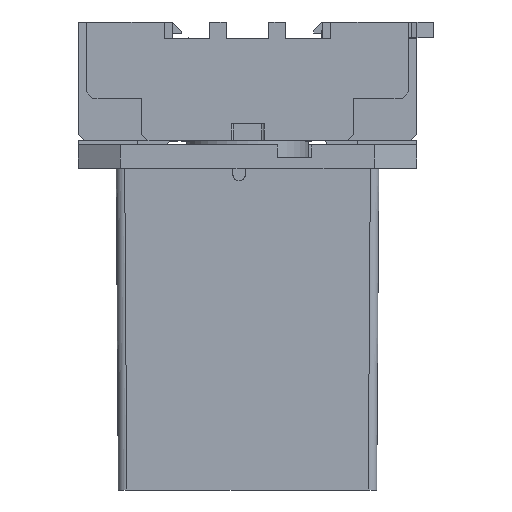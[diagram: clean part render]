
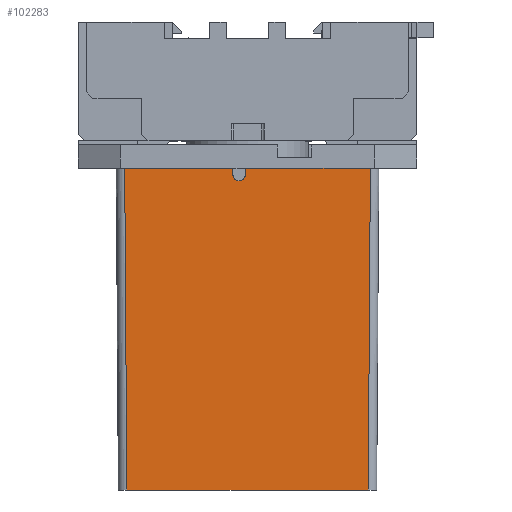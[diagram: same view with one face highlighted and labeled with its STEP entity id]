
A CAD part, left-side view. The second image highlights one B-rep face of the part: STEP entity #102283.
In plain terms, the highlighted planar face has unit normal (-1, 0, -0.007).
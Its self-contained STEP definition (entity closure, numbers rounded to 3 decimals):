
#101972=CARTESIAN_POINT('',(-24.99,0.5,74.5));
#101973=VERTEX_POINT('',#101972);
#101974=CARTESIAN_POINT('',(-24.99,3.5,74.5));
#101975=VERTEX_POINT('',#101974);
#101976=CARTESIAN_POINT('',(-24.99,2.,74.5));
#101977=DIRECTION('',(1.,0.0,0.007));
#101978=DIRECTION('',(0.0,1.0,0.0));
#101979=AXIS2_PLACEMENT_3D('',#101976,#101977,#101978);
#101980=CIRCLE('',#101979,1.5);
#101981=EDGE_CURVE('',#101973,#101975,#101980,.T.);
#102014=CARTESIAN_POINT('',(-25.0,0.5,76.0));
#102015=VERTEX_POINT('',#102014);
#102016=CARTESIAN_POINT('',(-25.,0.5,76.));
#102017=DIRECTION('',(0.007,0.,-1.));
#102018=VECTOR('',#102017,1.5);
#102019=LINE('',#102016,#102018);
#102020=EDGE_CURVE('',#102015,#101973,#102019,.T.);
#102171=CARTESIAN_POINT('',(-25.,3.5,76.0));
#102172=VERTEX_POINT('',#102171);
#102202=CARTESIAN_POINT('',(-24.99,3.5,74.5));
#102203=DIRECTION('',(-0.007,0.0,1.));
#102204=VECTOR('',#102203,1.5);
#102205=LINE('',#102202,#102204);
#102206=EDGE_CURVE('',#101975,#102172,#102205,.T.);
#102235=CARTESIAN_POINT('',(-25.0,-31.,76.0));
#102236=DIRECTION('',(-1.,0.,-0.007));
#102237=DIRECTION('',(-0.007,0.0,1.));
#102238=AXIS2_PLACEMENT_3D('',#102235,#102236,#102237);
#102239=PLANE('',#102238);
#102240=ORIENTED_EDGE('',*,*,#102206,.T.);
#102241=CARTESIAN_POINT('',(-25.,29.,76.0));
#102242=VERTEX_POINT('',#102241);
#102243=CARTESIAN_POINT('',(-25.,3.5,76.0));
#102244=DIRECTION('',(0.0,1.0,0.0));
#102245=VECTOR('',#102244,25.5);
#102246=LINE('',#102243,#102245);
#102247=EDGE_CURVE('',#102172,#102242,#102246,.T.);
#102248=ORIENTED_EDGE('',*,*,#102247,.T.);
#102249=CARTESIAN_POINT('',(-24.5,28.5,0.0));
#102250=VERTEX_POINT('',#102249);
#102251=CARTESIAN_POINT('',(-24.5,28.5,0.));
#102252=DIRECTION('',(-0.007,0.007,1.));
#102253=VECTOR('',#102252,76.003);
#102254=LINE('',#102251,#102253);
#102255=EDGE_CURVE('',#102250,#102242,#102254,.T.);
#102256=ORIENTED_EDGE('',*,*,#102255,.F.);
#102257=CARTESIAN_POINT('',(-24.5,-28.5,0.0));
#102258=VERTEX_POINT('',#102257);
#102259=CARTESIAN_POINT('',(-24.5,-28.5,0.0));
#102260=DIRECTION('',(0.0,1.0,0.0));
#102261=VECTOR('',#102260,57.);
#102262=LINE('',#102259,#102261);
#102263=EDGE_CURVE('',#102258,#102250,#102262,.T.);
#102264=ORIENTED_EDGE('',*,*,#102263,.F.);
#102265=CARTESIAN_POINT('',(-25.0,-29.,76.0));
#102266=VERTEX_POINT('',#102265);
#102267=CARTESIAN_POINT('',(-25.0,-29.,76.0));
#102268=DIRECTION('',(0.007,0.007,-1.));
#102269=VECTOR('',#102268,76.003);
#102270=LINE('',#102267,#102269);
#102271=EDGE_CURVE('',#102266,#102258,#102270,.T.);
#102272=ORIENTED_EDGE('',*,*,#102271,.F.);
#102273=CARTESIAN_POINT('',(-25.0,-29.,76.0));
#102274=DIRECTION('',(0.0,1.0,0.0));
#102275=VECTOR('',#102274,29.5);
#102276=LINE('',#102273,#102275);
#102277=EDGE_CURVE('',#102266,#102015,#102276,.T.);
#102278=ORIENTED_EDGE('',*,*,#102277,.T.);
#102279=ORIENTED_EDGE('',*,*,#102020,.T.);
#102280=ORIENTED_EDGE('',*,*,#101981,.T.);
#102281=EDGE_LOOP('',(#102240,#102248,#102256,#102264,#102272,#102278,#102279,#102280));
#102282=FACE_OUTER_BOUND('',#102281,.T.);
#102283=ADVANCED_FACE('',(#102282),#102239,.T.);
